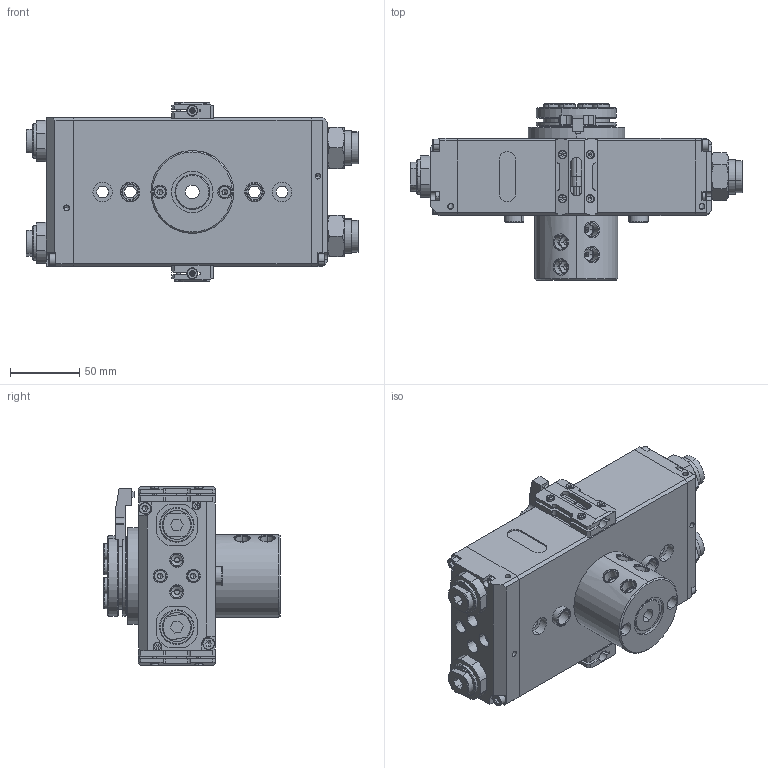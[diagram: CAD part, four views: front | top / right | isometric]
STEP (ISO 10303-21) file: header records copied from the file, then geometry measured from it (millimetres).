
FILE_DESCRIPTION (( 'STEP AP214' ), '1' );
FILE_NAME ('PFS40E-4.STEP', '2016-01-05T04:30:09', ( 'Registered User' ), ( 'Microsoft Corporation' ), 'SwSTEP 2.0', 'SolidWorks 2015', '' );
FILE_SCHEMA (( 'AUTOMOTIVE_DESIGN' ));
Length unit declared in the file: millimetre
Products named in the file (2): PFS40E-4
Bounding box: 240.5 x 128 x 130 mm (x, y, z)
Volume: 1217870.4 mm3; surface area: 386446.7 mm2
Topology: 70 solids, 70 shells, 2781 faces, 7203 edges, 4408 vertices
Faces by surface type: cylinder 923, plane 833, torus 541, cone 386, sphere 98
Entity records: 118403 total; most frequent: CARTESIAN_POINT 20486, DIRECTION 14534, ORIENTED_EDGE 13708, EDGE_CURVE 6854, AXIS2_PLACEMENT_3D 6005, VERTEX_POINT 4261, CIRCLE 3222, EDGE_LOOP 3147
